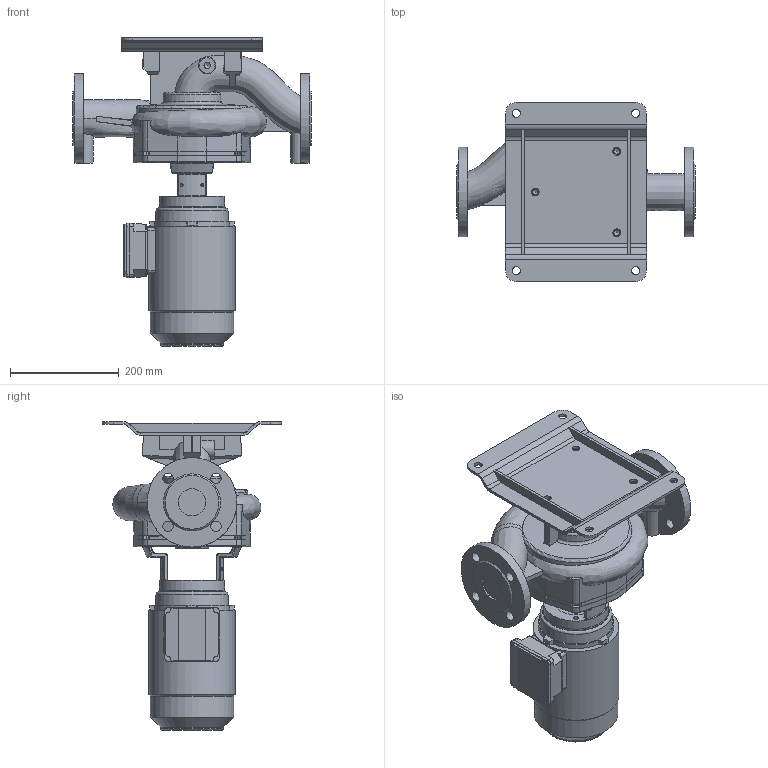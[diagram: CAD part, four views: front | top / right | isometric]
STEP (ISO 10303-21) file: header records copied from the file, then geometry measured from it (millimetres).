
FILE_DESCRIPTION (( 'STEP AP203' ), '1' );
FILE_NAME ('KI50-180_4_0,75kW.STEP', '2024-07-29T11:15:29', ( '' ), ( '' ), 'SwSTEP 2.0', 'SolidWorks 2023', '' );
FILE_SCHEMA (( 'CONFIG_CONTROL_DESIGN' ));
Length unit declared in the file: millimetre
Products named in the file (11): 230413; HMA3_80_2-4_solid; 230033; 230482; 230481; 230031; KI50-180_4_0,75kW; 230034; 230412; 220544; 220542
Assembly tree (11 placements, depth 3):
  KI50-180_4_0,75kW
    HMA3_80_2-4_solid
    230413
      230412
    230482
      230481
    220544
      220542
    230034
      230031
      230033  x2
Bounding box: 440 x 330.18 x 568.45 mm (x, y, z)
Volume: 13736232.3 mm3; surface area: 984267.5 mm2
Topology: 7 solids, 7 shells, 786 faces, 2015 edges, 1247 vertices
Faces by surface type: plane 276, cylinder 267, bspline 95, cone 67, torus 67, sphere 14
Full cylindrical faces by diameter (mm): 5 x12, 6 x3, 7 x8, 8 x4, 10.2 x7, 11.8 x4, 14 x4, 14.5 x7, 19 x8, 50 x2, 80 x1, 116 x1, 120 x2, 150 x1, 153.6 x1, 158.6 x1, 165 x2, 186 x1, 189 x1
Entity records: 43416 total; most frequent: CARTESIAN_POINT 24720, ORIENTED_EDGE 3660, DIRECTION 3511, EDGE_CURVE 1830, AXIS2_PLACEMENT_3D 1371, VERTEX_POINT 1191, EDGE_LOOP 975, FACE_OUTER_BOUND 851
